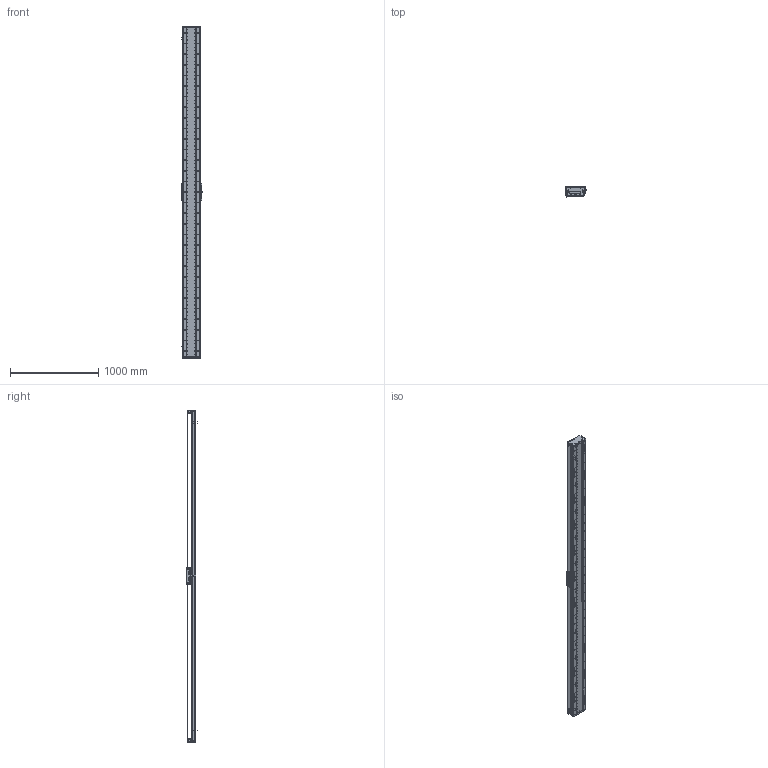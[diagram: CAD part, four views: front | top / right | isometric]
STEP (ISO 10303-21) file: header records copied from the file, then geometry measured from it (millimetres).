
FILE_DESCRIPTION (( 'STEP AP203' ), '1' );
FILE_NAME ('DA-C195-C2-T3480-C010-0.2 眻盄萇儂.STEP', '2025-08-15T01:19:52', ( '' ), ( '' ), 'SwSTEP 2.0', 'SolidWorks 2019', '' );
FILE_SCHEMA (( 'CONFIG_CONTROL_DESIGN' ));
Length unit declared in the file: millimetre
Products named in the file (15): PM-T45ㄗ侂狟ㄘ; LMT黍杅芛; DA195詩湍菜輸; DA-C195-C2-T3480-C010-0.2 眻盄萇儂; DA195詩湍裔啣; DA165-GYP-00 光电感应片(默认); DA-C195-GD-DB-H-00 傷啣; MS200 棠掑喜S315-T1740; DA95-HXJ-00 遣喳砎蝶; IU-CU195-L 菁釱絳寢; IU-CU195-L-00 菁釱(L3720); CU195-C2賑輸-俋楷; DA195詩湍郪璃; 葩璃 DA95-GT-T-00; DA195詩湍嶺輸
Assembly tree (29 placements, depth 3):
  DA-C195-C2-T3480-C010-0.2 眻盄萇儂
    DA195詩湍郪璃
      DA195詩湍菜輸  x2
      DA195詩湍裔啣
      DA195詩湍嶺輸  x2
      DA95-HXJ-00 遣喳砎蝶  x8
      DA-C195-GD-DB-H-00 傷啣  x2
    IU-CU195-L 菁釱絳寢
      IU-CU195-L-00 菁釱(L3720)
      葩璃 DA95-GT-T-00  x4
    LMT黍杅芛
    MS200 棠掑喜S315-T1740
    PM-T45ㄗ侂狟ㄘ  x3
    DA165-GYP-00 光电感应片(默认)
    CU195-C2賑輸-俋楷
Bounding box: 248 x 115.45 x 3760 mm (x, y, z)
Volume: 20789044.6 mm3; surface area: 6222445.2 mm2
Topology: 66 solids, 130 shells, 4852 faces, 14035 edges, 8903 vertices
Faces by surface type: cylinder 2815, plane 1419, cone 530, torus 52, sphere 36
Entity records: 164575 total; most frequent: CARTESIAN_POINT 47622, ORIENTED_EDGE 24954, DIRECTION 23232, EDGE_CURVE 12477, AXIS2_PLACEMENT_3D 8757, VERTEX_POINT 8105, VECTOR 5718, LINE 5718
